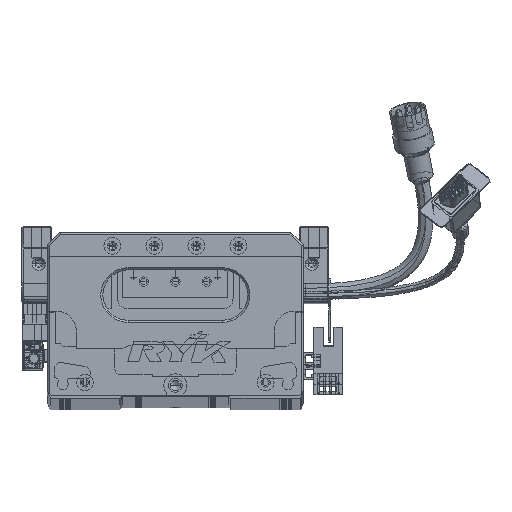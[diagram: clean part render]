
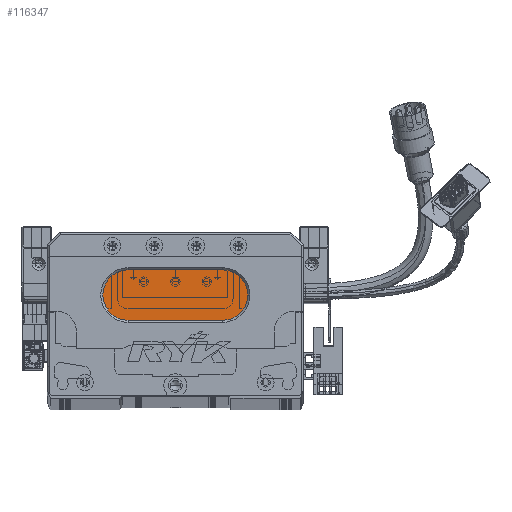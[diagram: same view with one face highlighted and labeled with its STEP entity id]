
A CAD part, top view. The second image highlights one B-rep face of the part: STEP entity #116347.
In plain terms, the highlighted planar face has unit normal (0, 0, 1) as drawn and (0, 0, -1) by its records, which use the part's own axes.
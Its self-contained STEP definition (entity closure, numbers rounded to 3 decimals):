
#4487 = VERTEX_POINT ( 'NONE', #117898 ) ;
#8372 = CARTESIAN_POINT ( 'NONE',  ( 83.5, 60., 13. ) ) ;
#19361 = VECTOR ( 'NONE', #59230, 1000. ) ;
#22090 = EDGE_LOOP ( 'NONE', ( #35718, #32162, #112882, #82115, #61752 ) ) ;
#28519 = CIRCLE ( 'NONE', #64686, 12. ) ;
#28696 = VERTEX_POINT ( 'NONE', #94274 ) ;
#30675 = DIRECTION ( 'NONE',  ( -1., 0., 0. ) ) ;
#31042 = CARTESIAN_POINT ( 'NONE',  ( 83.5, 48., 13. ) ) ;
#32162 = ORIENTED_EDGE ( 'NONE', *, *, #41650, .T. ) ;
#32479 = EDGE_CURVE ( 'NONE', #127417, #28696, #94353, .T. ) ;
#34595 = DIRECTION ( 'NONE',  ( -1., 0., 0. ) ) ;
#35718 = ORIENTED_EDGE ( 'NONE', *, *, #132949, .T. ) ;
#36898 = AXIS2_PLACEMENT_3D ( 'NONE', #74160, #95367, #30675 ) ;
#37953 = DIRECTION ( 'NONE',  ( -1., 0., 0. ) ) ;
#39632 = EDGE_CURVE ( 'NONE', #28696, #4487, #110307, .T. ) ;
#40038 = VERTEX_POINT ( 'NONE', #48862 ) ;
#41650 = EDGE_CURVE ( 'NONE', #40038, #49735, #129738, .T. ) ;
#44227 = DIRECTION ( 'NONE',  ( -1., 0., 0. ) ) ;
#48862 = CARTESIAN_POINT ( 'NONE',  ( 83.5, 36., 13. ) ) ;
#48871 = AXIS2_PLACEMENT_3D ( 'NONE', #31042, #126269, #116033 ) ;
#49735 = VERTEX_POINT ( 'NONE', #126814 ) ;
#59230 = DIRECTION ( 'NONE',  ( 1., 0., 0. ) ) ;
#61752 = ORIENTED_EDGE ( 'NONE', *, *, #39632, .T. ) ;
#64686 = AXIS2_PLACEMENT_3D ( 'NONE', #68561, #80159, #37953 ) ;
#65091 = DIRECTION ( 'NONE',  ( 0., 0., -1. ) ) ;
#68561 = CARTESIAN_POINT ( 'NONE',  ( 38.5, 48., 13. ) ) ;
#74160 = CARTESIAN_POINT ( 'NONE',  ( 83.5, 48., 13. ) ) ;
#80159 = DIRECTION ( 'NONE',  ( 0., 0., -1. ) ) ;
#82115 = ORIENTED_EDGE ( 'NONE', *, *, #32479, .T. ) ;
#85273 = AXIS2_PLACEMENT_3D ( 'NONE', #86866, #65091, #44227 ) ;
#86866 = CARTESIAN_POINT ( 'NONE',  ( 38.5, 48., 13. ) ) ;
#94274 = CARTESIAN_POINT ( 'NONE',  ( 38.5, 60., 13. ) ) ;
#94353 = CIRCLE ( 'NONE', #85273, 12. ) ;
#95367 = DIRECTION ( 'NONE',  ( 0., 0., -1. ) ) ;
#98867 = CARTESIAN_POINT ( 'NONE',  ( 83.5, 36., 13. ) ) ;
#104136 = PLANE ( 'NONE',  #36898 ) ;
#108452 = EDGE_CURVE ( 'NONE', #49735, #127417, #28519, .T. ) ;
#110307 = LINE ( 'NONE', #8372, #19361 ) ;
#112189 = CIRCLE ( 'NONE', #48871, 12. ) ;
#112882 = ORIENTED_EDGE ( 'NONE', *, *, #108452, .T. ) ;
#116033 = DIRECTION ( 'NONE',  ( -1., 0., 0. ) ) ;
#116347 = ADVANCED_FACE ( 'NONE', ( #123856 ), #104136, .T. ) ;
#117898 = CARTESIAN_POINT ( 'NONE',  ( 83.5, 60., 13. ) ) ;
#118176 = VECTOR ( 'NONE', #34595, 1000. ) ;
#123856 = FACE_OUTER_BOUND ( 'NONE', #22090, .T. ) ;
#126269 = DIRECTION ( 'NONE',  ( 0., 0., -1. ) ) ;
#126814 = CARTESIAN_POINT ( 'NONE',  ( 38.5, 36., 13. ) ) ;
#127417 = VERTEX_POINT ( 'NONE', #136809 ) ;
#129738 = LINE ( 'NONE', #98867, #118176 ) ;
#132949 = EDGE_CURVE ( 'NONE', #4487, #40038, #112189, .T. ) ;
#136809 = CARTESIAN_POINT ( 'NONE',  ( 26.5, 48., 13. ) ) ;
